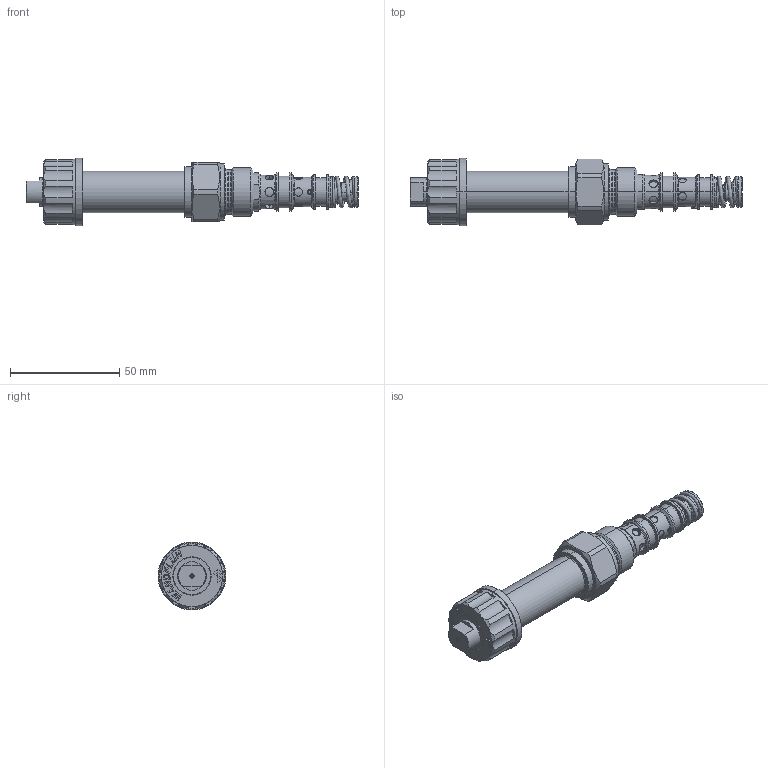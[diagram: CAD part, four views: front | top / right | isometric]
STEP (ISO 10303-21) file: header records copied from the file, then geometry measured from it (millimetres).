
FILE_DESCRIPTION (( 'STEP AP214' ), '1' );
FILE_NAME ('QSPPU10-X5-HZ.STEP', '2020-03-31T12:17:54', ( '' ), ( '' ), 'SwSTEP 2.0', 'SolidWorks 2018', '' );
FILE_SCHEMA (( 'AUTOMOTIVE_DESIGN' ));
Length unit declared in the file: millimetre
Products named in the file (1): QSPPU10-X5-HZ
Bounding box: 151.7 x 31 x 31 mm (x, y, z)
Volume: 48472.5 mm3; surface area: 13214 mm2
Topology: 1 solids, 1 shells, 475 faces, 1182 edges, 743 vertices
Faces by surface type: plane 200, cylinder 134, cone 80, torus 35, bspline 26
Entity records: 24062 total; most frequent: CARTESIAN_POINT 7812, ORIENTED_EDGE 2348, DIRECTION 2205, EDGE_CURVE 1174, AXIS2_PLACEMENT_3D 819, VERTEX_POINT 743, LINE 567, VECTOR 567
